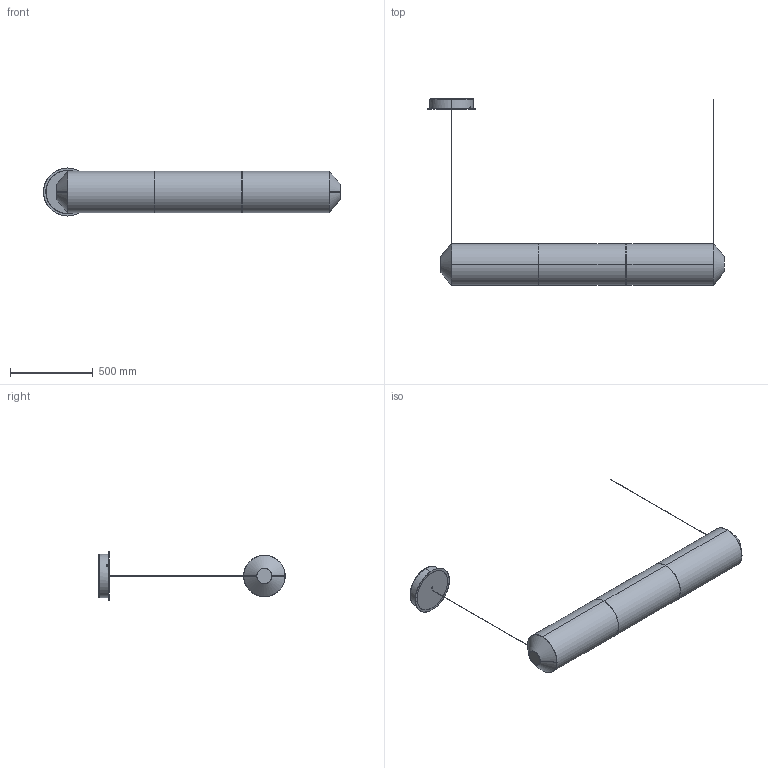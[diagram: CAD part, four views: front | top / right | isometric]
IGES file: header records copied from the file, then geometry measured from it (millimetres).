
Start section: SolidWorks IGES file using analytic representation for surfaces
Global section: file name: C:\Users\bernat.bisbal\Desktop\3D TEKIÒ WEB\TEKHP3.IGS; native system: SolidWorks 2016; preprocessor: SolidWorks 2016; author: bernat.bisbal; date: 180702.145220; units: millimetre
Bounding box: 1793.31 x 1125.4 x 290 mm (x, y, z)
Surface area: 3087938.3 mm2 (no closed solid volume)
Topology: 0 solids, 0 shells, 140 faces, 3315 edges, 3315 vertices
Faces by surface type: revolution 91, bspline 49
